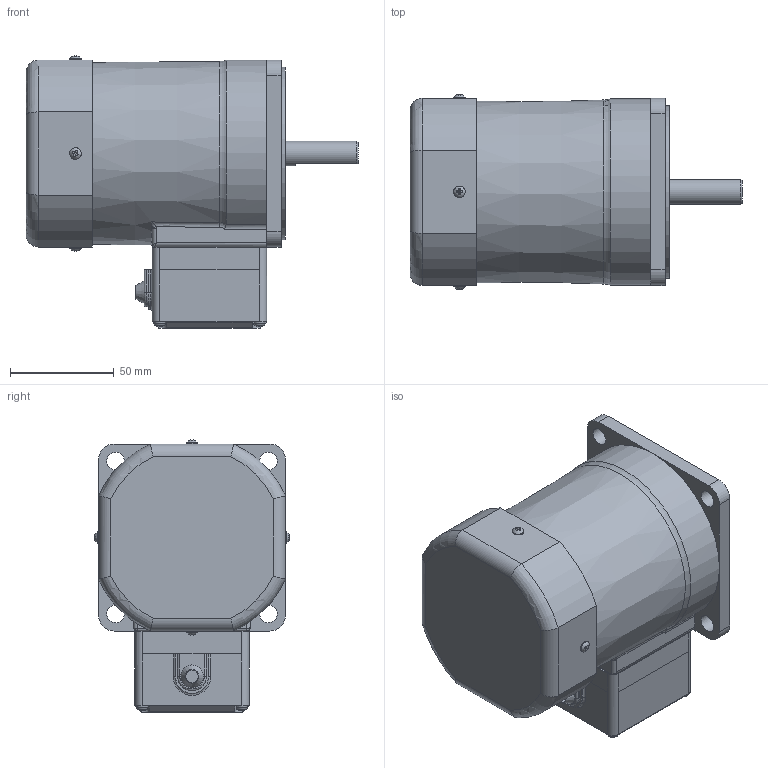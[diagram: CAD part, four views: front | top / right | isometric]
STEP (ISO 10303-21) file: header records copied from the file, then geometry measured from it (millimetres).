
FILE_DESCRIPTION(/* description */ (''),/* implementation_level */ '2;1');
FILE_NAME(/* name */ 'E:\도면작업\2016\0704) 미주향 SG 도면\3D MOTOR\TERMINAL BOX TYPE\INDUCTION TERMINAL BOX\SG9I60D_-T1.stp',/* time_stamp */ '2017-01-23T18:55:31+09:00',/* author */ ('jy-jung'),/* organization */ (''),/* preprocessor_version */ 'ST-DEVELOPER v15.6',/* originating_system */ 'Autodesk Inventor 2015',/* authorisation */ '');
FILE_SCHEMA (('AUTOMOTIVE_DESIGN { 1 0 10303 214 3 1 1 }'));
Length unit declared in the file: millimetre
Products named in the file (1): 부품1
Bounding box: 159.8 x 93.89 x 130.95 mm (x, y, z)
Volume: 924090.5 mm3; surface area: 67162.5 mm2
Topology: 1 solids, 6 shells, 354 faces, 921 edges, 590 vertices
Faces by surface type: plane 174, cylinder 70, cone 48, torus 36, bspline 22, sphere 4
Full cylindrical faces by diameter (mm): 3 x4, 3.5 x4, 5.6 x4, 8 x1, 8.5 x4, 12 x1, 40 x1, 83 x1
Entity records: 11994 total; most frequent: CARTESIAN_POINT 3505, ORIENTED_EDGE 1716, DIRECTION 1637, EDGE_CURVE 858, AXIS2_PLACEMENT_3D 623, VERTEX_POINT 578, EDGE_LOOP 430, LINE 391
